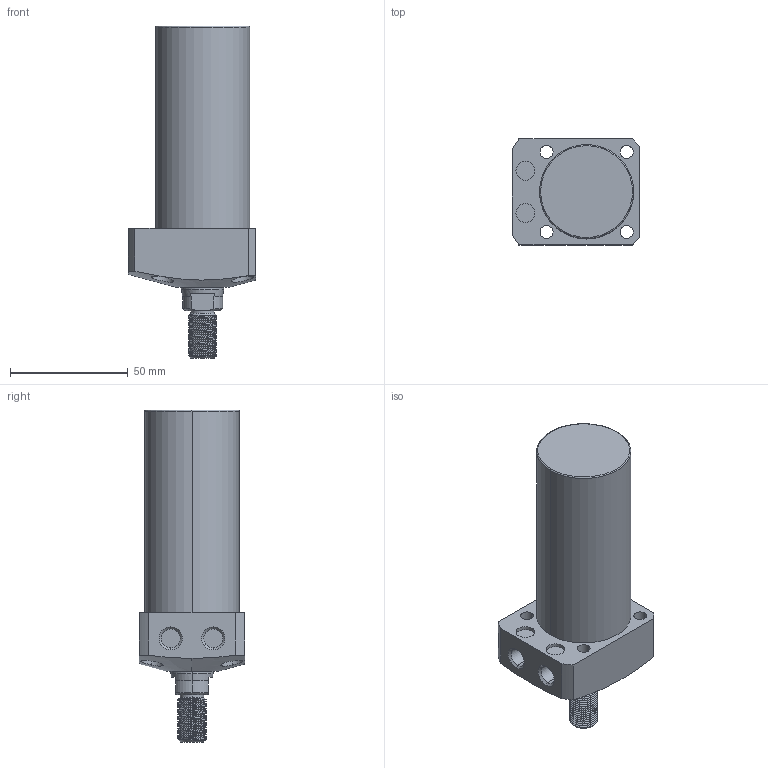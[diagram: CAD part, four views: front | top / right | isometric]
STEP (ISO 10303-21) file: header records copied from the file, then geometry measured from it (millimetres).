
FILE_DESCRIPTION (( 'STEP AP203' ), '1' );
FILE_NAME ('CLL-040CT-060.STEP', '2020-01-08T09:04:31', ( '' ), ( '' ), 'SwSTEP 2.0', 'SolidWorks 2015', '' );
FILE_SCHEMA (( 'CONFIG_CONTROL_DESIGN' ));
Length unit declared in the file: millimetre
Products named in the file (1): CLL-040CT-060
Bounding box: 54 x 45 x 141 mm (x, y, z)
Volume: 161752.3 mm3; surface area: 23680.6 mm2
Topology: 1 solids, 1 shells, 116 faces, 294 edges, 191 vertices
Faces by surface type: cylinder 71, plane 24, cone 17, torus 2, bspline 2
Entity records: 5877 total; most frequent: CARTESIAN_POINT 3188, ORIENTED_EDGE 588, DIRECTION 506, EDGE_CURVE 294, AXIS2_PLACEMENT_3D 200, VERTEX_POINT 191, EDGE_LOOP 135, FACE_OUTER_BOUND 116
